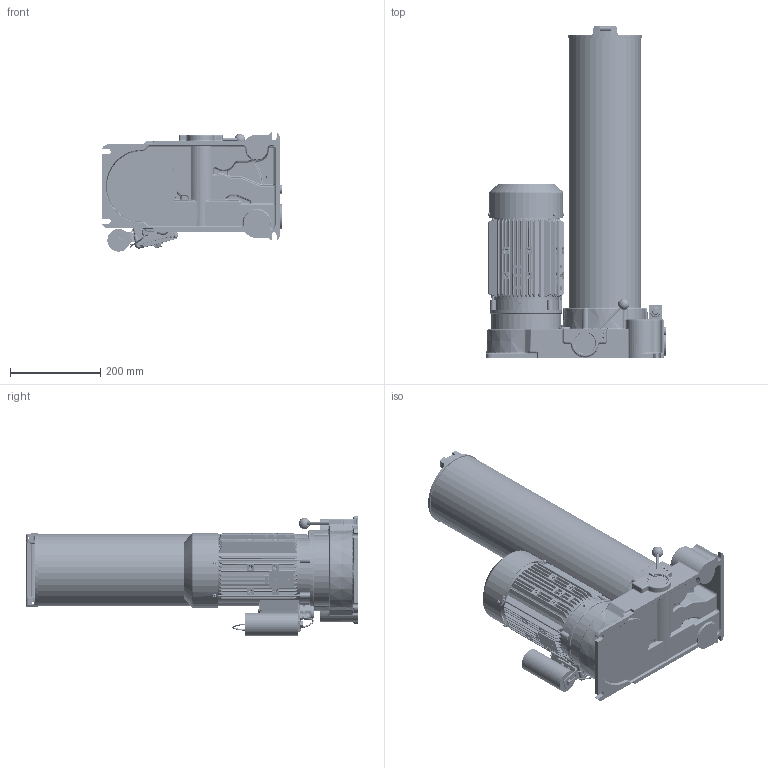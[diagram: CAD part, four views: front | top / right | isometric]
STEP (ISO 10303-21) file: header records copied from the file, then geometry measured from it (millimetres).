
FILE_DESCRIPTION((''),'2;1');
FILE_NAME('1000529286','2024-11-06T10:29:38',('j.madej'),(''),'CREO PARAMETRIC BY PTC INC, 2023254','CREO PARAMETRIC BY PTC INC, 2023254','');
FILE_SCHEMA(('CONFIG_CONTROL_DESIGN'));
Length unit declared in the file: millimetre
Products named in the file (1): 1000529286
Bounding box: 399.8 x 734.5 x 263.7 mm (x, y, z)
Volume: 8303592.5 mm3; surface area: 1852423.8 mm2
Topology: 1 solids, 29 shells, 5692 faces, 15119 edges, 9523 vertices
Faces by surface type: plane 2152, cylinder 1661, torus 619, cone 592, bspline 554, sphere 114
Entity records: 221394 total; most frequent: CARTESIAN_POINT 84242, ORIENTED_EDGE 29914, DIRECTION 27495, EDGE_CURVE 14957, AXIS2_PLACEMENT_3D 10596, VERTEX_POINT 9523, VECTOR 6303, LINE 6303
